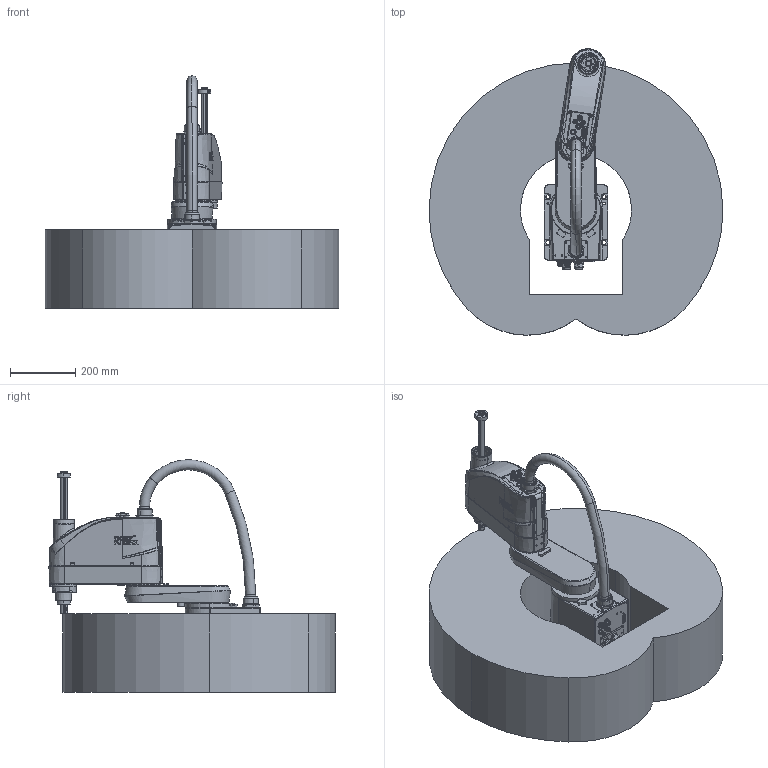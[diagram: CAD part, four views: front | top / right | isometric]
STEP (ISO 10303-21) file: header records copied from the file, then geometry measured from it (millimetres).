
FILE_DESCRIPTION (( 'STEP AP203' ), '1' );
FILE_NAME ('1.210B6.00.000.D Python450-B6陔俋夤蚾饜极-.STEP', '2024-05-13T01:05:30', ( '' ), ( '' ), 'SwSTEP 2.0', 'SolidWorks 2021', '' );
FILE_SCHEMA (( 'CONFIG_CONTROL_DESIGN' ));
Length unit declared in the file: millimetre
Products named in the file (7): 复件 Python450-B6铸件工作空间^1.210B6.00.000.D Python450-B6新外观装配体-; 复件 Python-B6新外观底座装配体^1.210B6.00.000.D Python450-B6新外观装配体-; 复件 Python-B6新外观滚珠丝杆花键轴装配体^1.210B6.00.000.D Python450-B6新外观装配体-; 复件 Python450-B6新外观线束装配体^1.210B6.00.000.D Python450-B6新外观装配体-; 1.210B6.00.000.D Python450-B6陔俋夤蚾饜极-; 复件 Python450-B6新外观大臂装配体^1.210B6.00.000.D Python450-B6新外观装配体-; 复件 Python-B6新外观小臂装配体^1.210B6.00.000.D Python450-B6新外观装配体-
Assembly tree (6 placements, depth 2):
  1.210B6.00.000.D Python450-B6陔俋夤蚾饜极-
    复件 Python-B6新外观底座装配体^1.210B6.00.000.D Python450-B6新外观装配体-
    复件 Python450-B6新外观大臂装配体^1.210B6.00.000.D Python450-B6新外观装配体-
    复件 Python-B6新外观小臂装配体^1.210B6.00.000.D Python450-B6新外观装配体-
    复件 Python-B6新外观滚珠丝杆花键轴装配体^1.210B6.00.000.D Python450-B6新外观装配体-
    复件 Python450-B6铸件工作空间^1.210B6.00.000.D Python450-B6新外观装配体-
    复件 Python450-B6新外观线束装配体^1.210B6.00.000.D Python450-B6新外观装配体-
Bounding box: 900 x 876.82 x 712.19 mm (x, y, z)
Volume: 126938544.4 mm3; surface area: 3020448 mm2
Topology: 56 solids, 56 shells, 2424 faces, 6097 edges, 3932 vertices
Faces by surface type: cylinder 855, plane 747, bspline 398, cone 329, torus 88, sphere 7
Entity records: 105857 total; most frequent: CARTESIAN_POINT 48922, ORIENTED_EDGE 12118, DIRECTION 11088, EDGE_CURVE 6059, AXIS2_PLACEMENT_3D 4451, VERTEX_POINT 3932, EDGE_LOOP 2871, FACE_OUTER_BOUND 2424
